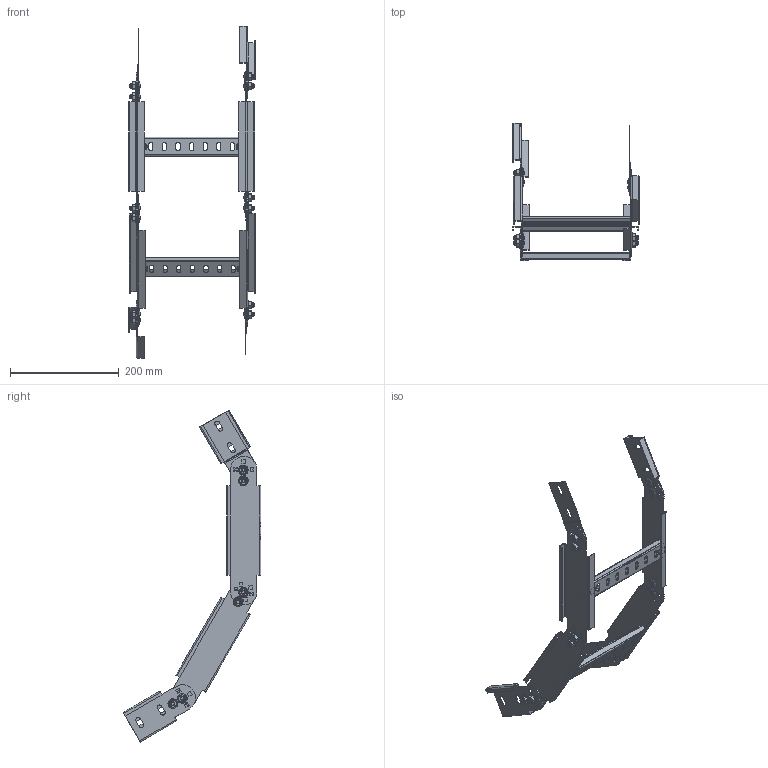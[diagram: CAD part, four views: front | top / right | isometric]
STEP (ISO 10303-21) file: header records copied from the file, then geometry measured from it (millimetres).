
FILE_DESCRIPTION (( 'STEP AP214' ), '1' );
FILE_NAME ('CCXFER 200x60 GS.STEP', '2023-06-28T13:23:14', ( '' ), ( '' ), 'SwSTEP 2.0', 'SolidWorks 2022', '' );
FILE_SCHEMA (( 'AUTOMOTIVE_DESIGN' ));
Length unit declared in the file: millimetre
Products named in the file (8): tornillo B2 M8x15_RENDER_M6x14; CCXFER 200x60 GS; Tuerca M8 DIN 6923_M8; FER_lateral_CCX_pieza1_63; Travesaño RAT35 FER GS_200; FER_lateral_extremo_plano_CCX_63; CCXFER_Tramo_63; FER_lateral_extremo_CCX_63
Assembly tree (33 placements, depth 3):
  CCXFER 200x60 GS
    CCXFER_Tramo_63  x2
      Travesaño RAT35 FER GS_200
      FER_lateral_CCX_pieza1_63
    FER_lateral_extremo_CCX_63  x2
    FER_lateral_extremo_plano_CCX_63  x2
    tornillo B2 M8x15_RENDER_M6x14  x12
    Tuerca M8 DIN 6923_M8  x12
Bounding box: 233.5 x 253.28 x 610.42 mm (x, y, z)
Volume: 230376.2 mm3; surface area: 310161.4 mm2
Topology: 34 solids, 34 shells, 2956 faces, 7016 edges, 4160 vertices
Faces by surface type: plane 1108, cone 600, torus 536, cylinder 520, sphere 96, bspline 96
Entity records: 15753 total; most frequent: CARTESIAN_POINT 3585, DIRECTION 2527, ORIENTED_EDGE 2384, EDGE_CURVE 1192, AXIS2_PLACEMENT_3D 892, LINE 743, VECTOR 743, VERTEX_POINT 724
